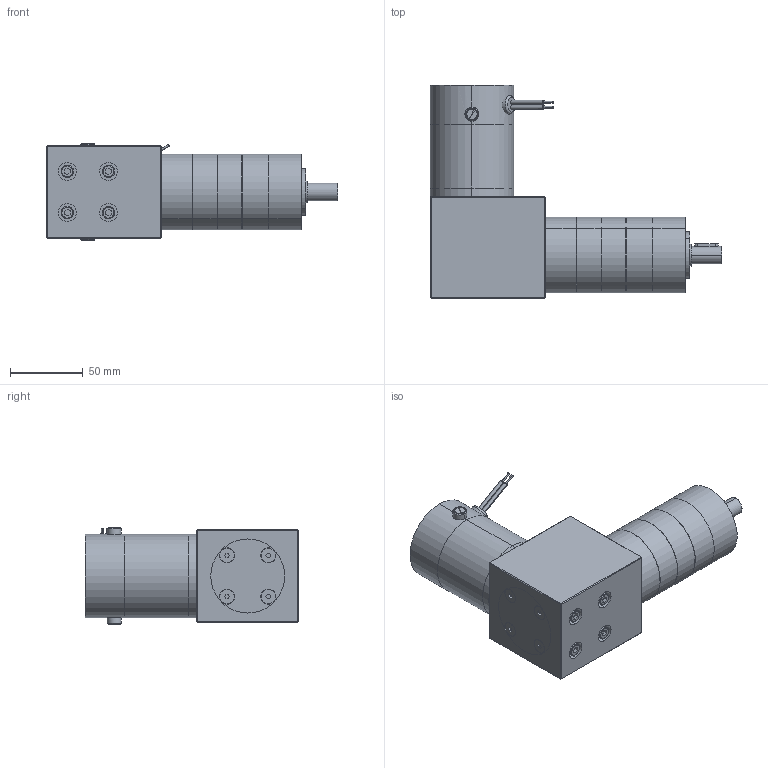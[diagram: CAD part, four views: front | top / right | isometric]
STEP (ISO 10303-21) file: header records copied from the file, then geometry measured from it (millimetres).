
FILE_DESCRIPTION (( 'STEP AP203' ), '1' );
FILE_NAME ('d22301gra4.step', '2018-12-07T19:21:24', ( '' ), ( '' ), 'SwSTEP 2.0', 'SolidWorks 2017', '' );
FILE_SCHEMA (( 'CONFIG_CONTROL_DESIGN' ));
Length unit declared in the file: inch
Products named in the file (1): d22301gra4
Bounding box: 200.02 x 146.35 x 66.04 mm (x, y, z)
Volume: 742724.3 mm3; surface area: 119252.1 mm2
Topology: 24 solids, 24 shells, 574 faces, 1241 edges, 762 vertices
Faces by surface type: plane 244, cylinder 222, cone 97, torus 7, sphere 4
Entity records: 15842 total; most frequent: DIRECTION 2897, CARTESIAN_POINT 2888, ORIENTED_EDGE 2434, EDGE_CURVE 1217, AXIS2_PLACEMENT_3D 1121, VERTEX_POINT 762, EDGE_LOOP 687, LINE 655
